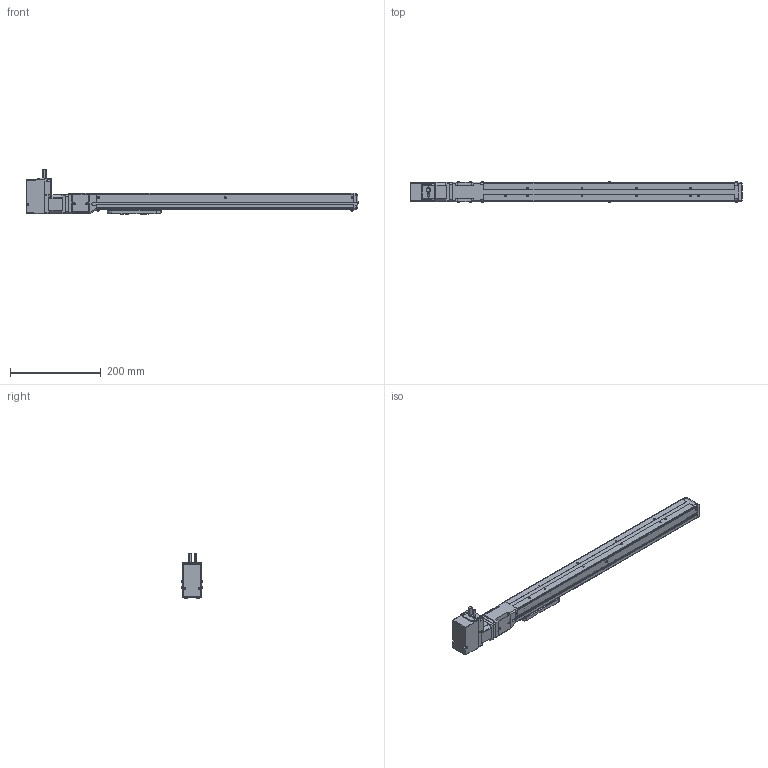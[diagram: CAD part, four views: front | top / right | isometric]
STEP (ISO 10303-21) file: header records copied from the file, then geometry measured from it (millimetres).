
FILE_DESCRIPTION(('FreeCAD Model'),'2;1');
FILE_NAME('Open CASCADE Shape Model','2023-08-01T17:23:01',('Author'),( ''),'Open CASCADE STEP processor 7.5','FreeCAD','Unknown');
FILE_SCHEMA(('AUTOMOTIVE_DESIGN { 1 0 10303 214 1 1 1 1 }'));
Length unit declared in the file: millimetre
Products named in the file (20): SCKSF4_020_400_S; Shapes; Shapes001; Shapes002; Shapes003; Shapes004; Shapes005; Shapes006; Shapes007; Shapes008; Shapes009; Shapes010; Shapes011; Shapes012; Shapes013; KSF4-10-0400-0-AR(0); KSF4---(Cover); KSF4-AR---(Motor bracket); KSF4-10-0400---(slider); KSF4-10-0400-0-AR-(04000ARNo0)---(body)
Assembly tree (19 placements, depth 3):
  SCKSF4_020_400_S
    Shapes
    Shapes001
    Shapes002
    Shapes003
    Shapes004
    Shapes005
    Shapes006
    Shapes007
    Shapes008
    Shapes009
    Shapes010
    Shapes011
    Shapes012
    Shapes013
    KSF4-10-0400-0-AR(0)
      KSF4---(Cover)
      KSF4-AR---(Motor bracket)
      KSF4-10-0400---(slider)
      KSF4-10-0400-0-AR-(04000ARNo0)---(body)
Bounding box: 732 x 45.4 x 97.64 mm (x, y, z)
Volume: 1191113.9 mm3; surface area: 230594 mm2
Topology: 18 solids, 18 shells, 1245 faces, 3236 edges, 2110 vertices
Faces by surface type: plane 679, cylinder 420, cone 66, torus 51, bspline 19, revolution 6, sphere 4
Full cylindrical faces by diameter (mm): 2.113 x8, 2.459 x3, 3 x6, 3.242 x4, 3.4 x12, 4 x3, 4.5 x2, 5.5 x8, 6 x1, 6.5 x14, 8 x1, 12 x1, 22 x1, 28 x1, 30 x2
Entity records: 91822 total; most frequent: CARTESIAN_POINT 26556, DIRECTION 12263, LINE 7279, VECTOR 7279, ORIENTED_EDGE 6436, PCURVE 6436, DEFINITIONAL_REPRESENTATION 6436, EDGE_CURVE 3218
